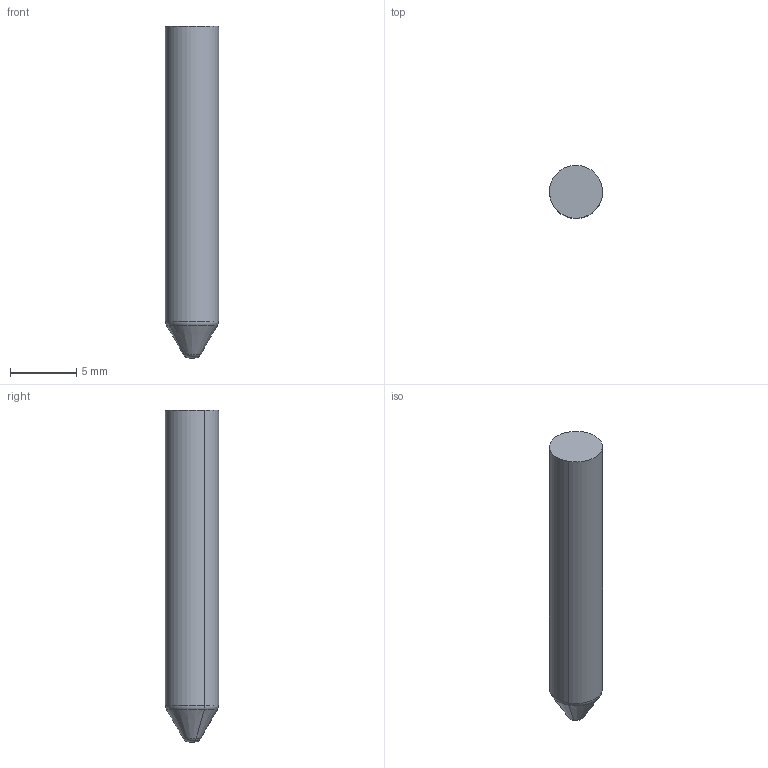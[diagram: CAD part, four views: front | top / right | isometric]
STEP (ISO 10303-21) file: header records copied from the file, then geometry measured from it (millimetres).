
FILE_DESCRIPTION(('CATIA V5 STEP Exchange'),'2;1');
FILE_NAME('E:\WAT\Sprezarka\122_00_00_Tlocznik2\Tlocznik2_stp\122_01_04_Kolek.stp','2022-12-06T12:23:06+00:00',('none'),('none'),'CATIA Version 5 Release 20 SP 4 (IN-10)','CATIA V5 STEP AP214','none');
FILE_SCHEMA(('AUTOMOTIVE_DESIGN { 1 0 10303 214 1 1 1 1 }'));
Length unit declared in the file: millimetre
Products named in the file (1): 122_01_04_Kolek
Bounding box: 4 x 4 x 25 mm (x, y, z)
Volume: 295.7 mm3; surface area: 318.1 mm2
Topology: 1 solids, 1 shells, 10 faces, 18 edges, 10 vertices
Faces by surface type: torus 4, plane 2, cylinder 2, cone 2
Entity records: 261 total; most frequent: CARTESIAN_POINT 37, ORIENTED_EDGE 36, DIRECTION 34, AXIS2_PLACEMENT_3D 23, EDGE_CURVE 18, CIRCLE 14, ADVANCED_FACE 10, EDGE_LOOP 10
